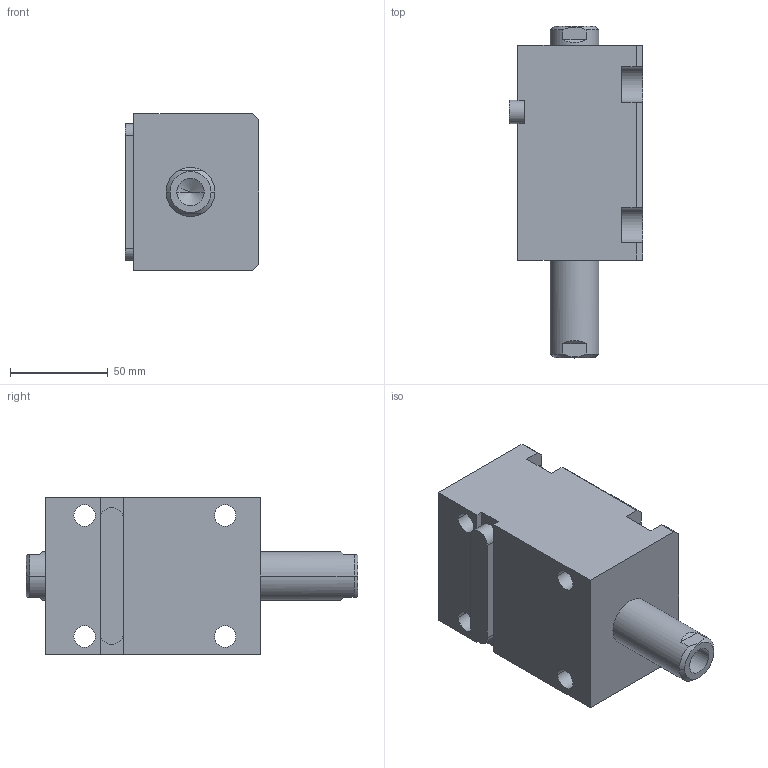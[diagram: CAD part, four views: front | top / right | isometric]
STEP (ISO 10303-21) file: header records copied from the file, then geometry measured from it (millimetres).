
FILE_DESCRIPTION (( 'STEP AP214' ), '1' );
FILE_NAME ('chtb-lw40x40_asm.STEP', '2018-06-05T01:32:42', ( 'Windows' ), ( 'Microsoft' ), 'SwSTEP 2.0', 'SolidWorks 2015', '' );
FILE_SCHEMA (( 'AUTOMOTIVE_DESIGN' ));
Length unit declared in the file: millimetre
Products named in the file (5): CHTB-SW40X40NHSG; CHTB-SD40QG; CHTB-LW40X40NBT; CHTB-LA40PJ; chtb-lw40x40_asm
Assembly tree (4 placements, depth 2):
  chtb-lw40x40_asm
    CHTB-LA40PJ
    CHTB-LW40X40NBT
    CHTB-SD40QG
    CHTB-SW40X40NHSG
Bounding box: 68.5 x 170 x 80 mm (x, y, z)
Volume: 518385.2 mm3; surface area: 95025.4 mm2
Topology: 4 solids, 4 shells, 172 faces, 462 edges, 304 vertices
Faces by surface type: cylinder 77, plane 52, cone 17, bspline 14, torus 12
Entity records: 10654 total; most frequent: CARTESIAN_POINT 6188, ORIENTED_EDGE 904, DIRECTION 853, EDGE_CURVE 452, AXIS2_PLACEMENT_3D 340, VERTEX_POINT 304, EDGE_LOOP 204, CIRCLE 175
